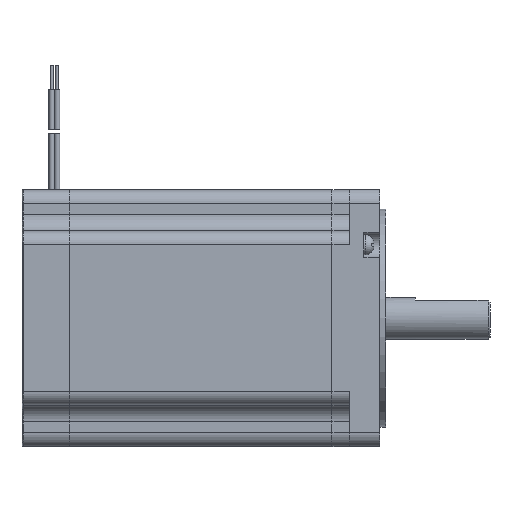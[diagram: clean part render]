
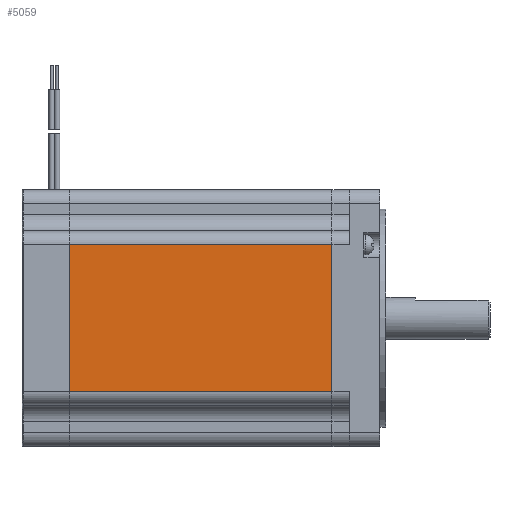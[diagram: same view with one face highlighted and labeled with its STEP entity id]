
A CAD part, top view. The second image highlights one B-rep face of the part: STEP entity #5059.
In plain terms, the highlighted planar face has unit normal (0, 0, 1).
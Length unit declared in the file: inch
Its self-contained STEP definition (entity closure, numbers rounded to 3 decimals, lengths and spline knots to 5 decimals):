
#4324=CARTESIAN_POINT('',(1.6369,-0.971,1.695));
#4325=VERTEX_POINT('',#4324);
#4333=CARTESIAN_POINT('',(1.6369,0.971,1.695));
#4334=VERTEX_POINT('',#4333);
#4335=CARTESIAN_POINT('',(1.6369,-0.4855,1.695));
#4336=DIRECTION('',(0.,1.,0.));
#4337=VECTOR('',#4336,1.);
#4338=LINE('',#4335,#4337);
#4339=EDGE_CURVE('',#4325,#4334,#4338,.T.);
#4559=CARTESIAN_POINT('',(5.09722,0.971,1.695));
#4560=VERTEX_POINT('',#4559);
#4568=CARTESIAN_POINT('',(5.09722,-0.971,1.695));
#4569=VERTEX_POINT('',#4568);
#4570=CARTESIAN_POINT('',(5.09722,-0.4855,1.695));
#4571=DIRECTION('',(0.,-1.,0.));
#4572=VECTOR('',#4571,1.);
#4573=LINE('',#4570,#4572);
#4574=EDGE_CURVE('',#4560,#4569,#4573,.T.);
#5028=CARTESIAN_POINT('',(1.54,-0.971,1.695));
#5029=DIRECTION('',(1.,0.,0.));
#5030=VECTOR('',#5029,39.37008);
#5031=LINE('',#5028,#5030);
#5032=EDGE_CURVE('',#4325,#4569,#5031,.T.);
#5043=ORIENTED_EDGE('',*,*,#5032,.T.);
#5044=ORIENTED_EDGE('',*,*,#4574,.F.);
#5045=CARTESIAN_POINT('',(1.54,0.971,1.695));
#5046=DIRECTION('',(1.,0.,0.));
#5047=VECTOR('',#5046,39.37008);
#5048=LINE('',#5045,#5047);
#5049=EDGE_CURVE('',#4334,#4560,#5048,.T.);
#5050=ORIENTED_EDGE('',*,*,#5049,.F.);
#5051=ORIENTED_EDGE('',*,*,#4339,.F.);
#5052=EDGE_LOOP('',(#5043,#5044,#5050,#5051));
#5053=FACE_OUTER_BOUND('',#5052,.T.);
#5054=CARTESIAN_POINT('',(1.54,-0.971,1.695));
#5055=DIRECTION('',(0.,0.,1.));
#5056=DIRECTION('',(0.,-1.,0.));
#5057=AXIS2_PLACEMENT_3D('',#5054,#5055,#5056);
#5058=PLANE('',#5057);
#5059=ADVANCED_FACE('',(#5053),#5058,.T.);
